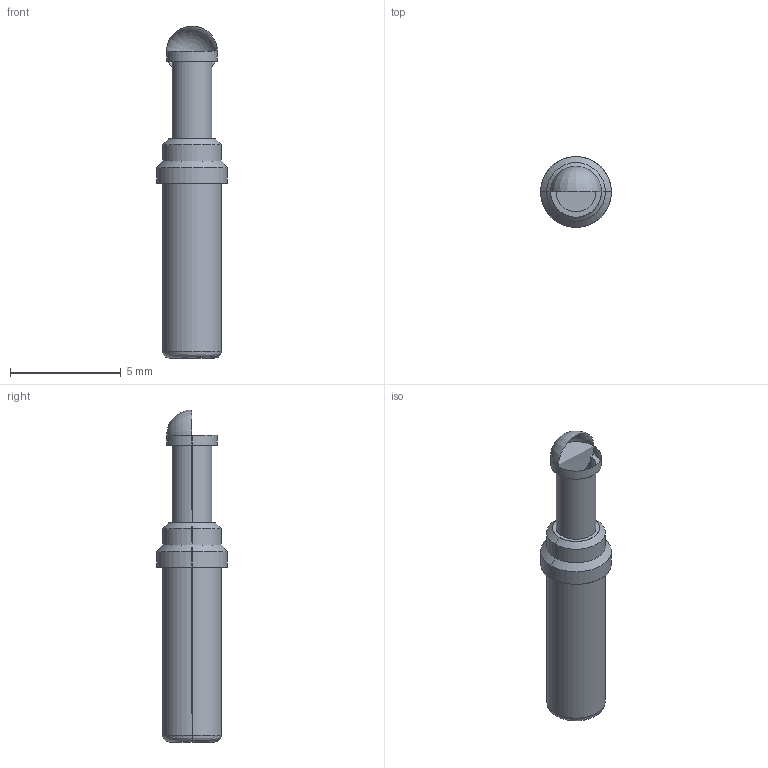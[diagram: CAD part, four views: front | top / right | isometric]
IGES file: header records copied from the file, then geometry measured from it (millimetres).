
Start section: SolidWorks IGES file using analytic representation for surfaces
Global section: file name: \\coda-svr01\FolderRedirection\georged\Documents\CODA CAD FILES\INTERFACING COMPONENTS\FRONT FITMENT\HD-PC8 SERIES\HD-PC8DS.IGS; native system: SolidWorks 2024; preprocessor: SolidWorks 2024; author: GeorgeD; date: 260326.103243; units: millimetre
Bounding box: 3.2 x 3.2 x 15 mm (x, y, z)
Surface area: 126.4 mm2 (no closed solid volume)
Topology: 0 solids, 0 shells, 22 faces, 296 edges, 294 vertices
Faces by surface type: revolution 16, bspline 6
